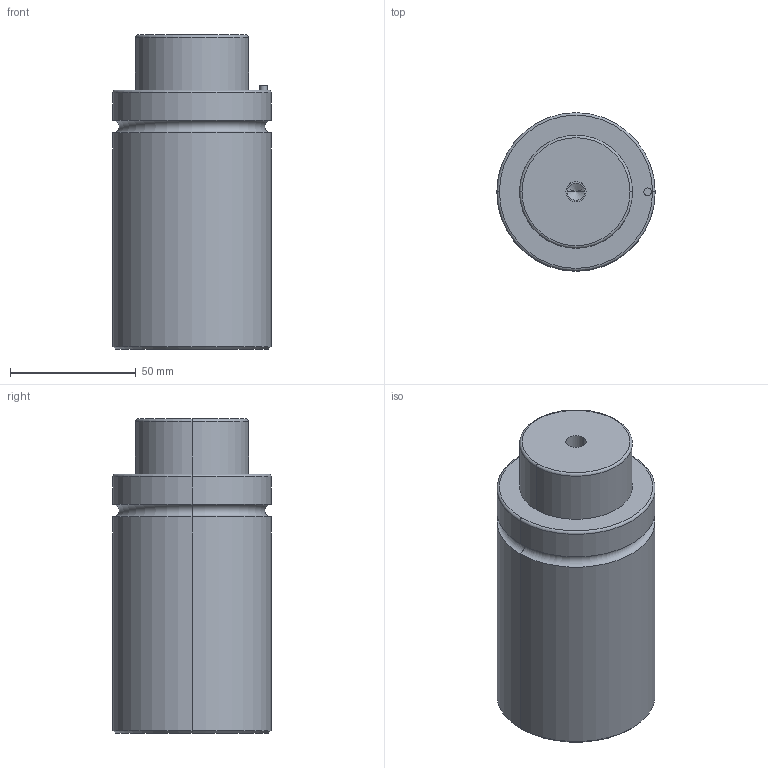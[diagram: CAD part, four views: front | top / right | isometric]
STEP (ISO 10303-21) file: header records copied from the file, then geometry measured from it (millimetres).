
FILE_DESCRIPTION(/* description */ (''),/* implementation_level */ '2;1');
FILE_NAME(/* name */ '3d_gsm63-20_03911_r00.stp',/* time_stamp */ '2011-01-10T14:15:14+09:00',/* author */ ('MISUMI'),/* organization */ (''),/* preprocessor_version */ 'ST-DEVELOPER v11',/* originating_system */ 'UGS - NX 5.0',/* authorisation */ '');
FILE_SCHEMA (('CONFIG_CONTROL_DESIGN'));
Length unit declared in the file: millimetre
Products named in the file (1): 3d_gsm63-20_03911_r00
Bounding box: 63 x 63 x 125 mm (x, y, z)
Volume: 351159.9 mm3; surface area: 31414.9 mm2
Topology: 1 solids, 1 shells, 48 faces, 102 edges, 58 vertices
Faces by surface type: cylinder 24, cone 10, plane 8, torus 6
Entity records: 1332 total; most frequent: DIRECTION 252, CARTESIAN_POINT 201, ORIENTED_EDGE 188, AXIS2_PLACEMENT_3D 109, EDGE_CURVE 94, CIRCLE 60, EDGE_LOOP 58, VERTEX_POINT 58
